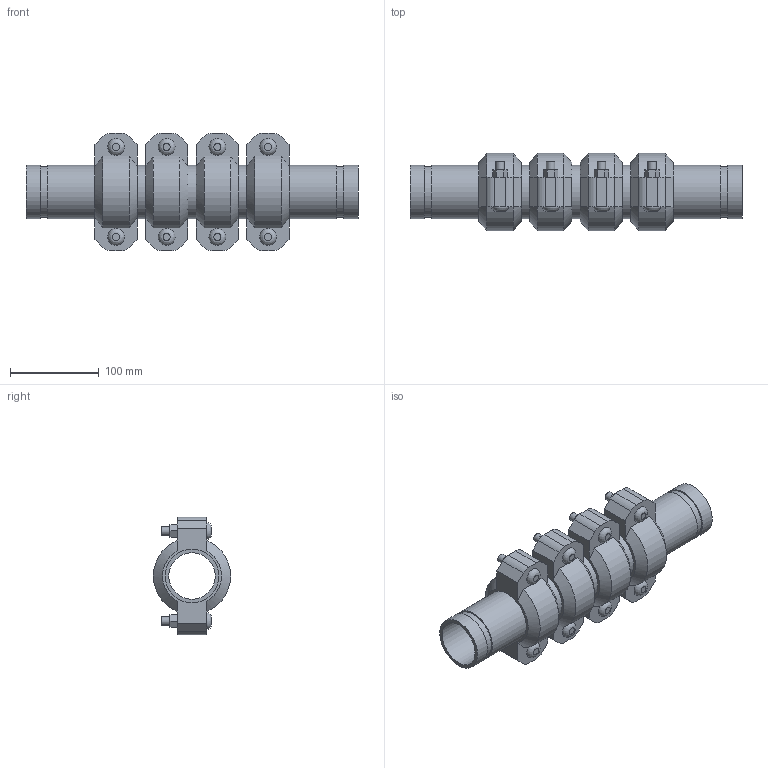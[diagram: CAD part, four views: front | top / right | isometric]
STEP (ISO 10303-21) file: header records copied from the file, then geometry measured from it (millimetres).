
FILE_DESCRIPTION(/* description */ ('VIC EXPANSION JOINT 4 COUPLINGS COMPRESSED STYLE 155 (OGS)','CAx-IF Rec.Pracs.---Representation and Presentation of Product Manufacturing Information (PMI)---4.0---2014-10-13'),/* implementation_level */ '2;1');
FILE_NAME(/* name */ 'C:\Users\kkamble\AppData\Roaming\Autodesk\ApplicationPlugins\Victaulic.Temp\A318\Victaulic_IPS_Expansion Joint_Compressed_4 Couplings_Style 155 (OGS)_2 (50).stp',/* time_stamp */ '2021-06-27T00:27:16+02:00',/* author */ ('kkamble'),/* organization */ ('Victaulic'),/* preprocessor_version */ 'ST-DEVELOPER v17.2',/* originating_system */ 'Autodesk Inventor 2019',/* authorisation */ '');
FILE_SCHEMA (('AP242_MANAGED_MODEL_BASED_3D_ENGINEERING_MIM_LF { 1 0 10303 442 1 1 4 }'));
Length unit declared in the file: inch
Products named in the file (4): 155-02.0; Nipple-02.0; Nipple-02.0_1; 075-02.0
Assembly tree (9 placements, depth 2):
  155-02.0
    Nipple-02.0  x2
    Nipple-02.0_1  x3
    075-02.0  x4
Bounding box: 374.65 x 87.12 x 132.59 mm (x, y, z)
Volume: 1036387.7 mm3; surface area: 299688.6 mm2
Topology: 9 solids, 17 shells, 272 faces, 658 edges, 464 vertices
Faces by surface type: plane 166, cylinder 82, cone 16, bspline 8
Full cylindrical faces by diameter (mm): 9.525 x16, 11.43 x8, 52.502 x5, 57.15 x10, 60.325 x19
Entity records: 2691 total; most frequent: CARTESIAN_POINT 479, DIRECTION 443, ORIENTED_EDGE 374, EDGE_CURVE 187, AXIS2_PLACEMENT_3D 176, VERTEX_POINT 134, EDGE_LOOP 101, LINE 91
